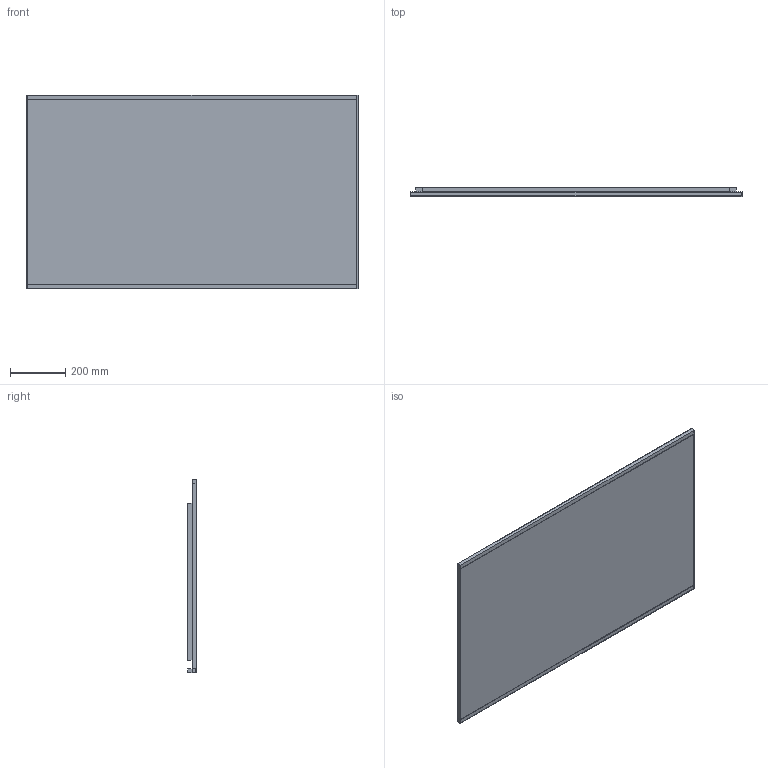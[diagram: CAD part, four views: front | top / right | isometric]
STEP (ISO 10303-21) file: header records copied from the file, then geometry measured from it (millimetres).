
FILE_DESCRIPTION(/* description */ (''),/* implementation_level */ '2;1');
FILE_NAME(/* name */ 'C:\Planerdaten\Export PLA\502.785.00.1\stp\502785.stp',/* time_stamp */ '2022-12-02T15:05:29+01:00',/* author */ ('JANAN'),/* organization */ (''),/* preprocessor_version */ 'ST-DEVELOPER v18.1',/* originating_system */ 'Autodesk Inventor 2021',/* authorisation */ '');
FILE_SCHEMA (('AUTOMOTIVE_DESIGN { 1 0 10303 214 3 1 1 }'));
Length unit declared in the file: millimetre
Products named in the file (1): tmp5646.tmp
Bounding box: 1200 x 32 x 700 mm (x, y, z)
Volume: 22726977.5 mm3; surface area: 3674481 mm2
Topology: 4 solids, 4 shells, 63 faces, 154 edges, 104 vertices
Faces by surface type: plane 59, cylinder 4
Full cylindrical faces by diameter (mm): 8 x4
Entity records: 1959 total; most frequent: CARTESIAN_POINT 322, ORIENTED_EDGE 308, DIRECTION 298, EDGE_CURVE 154, LINE 138, VECTOR 138, VERTEX_POINT 104, AXIS2_PLACEMENT_3D 80
